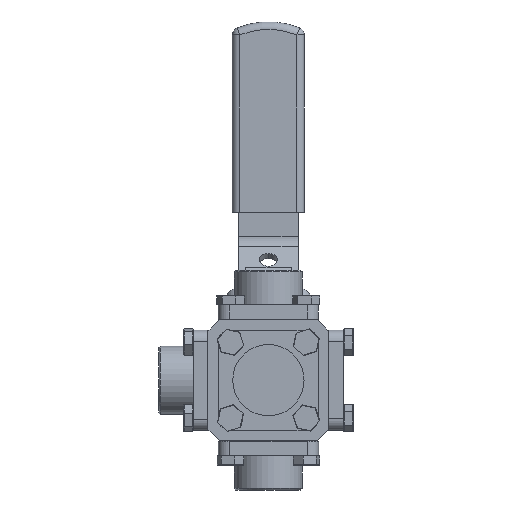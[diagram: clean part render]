
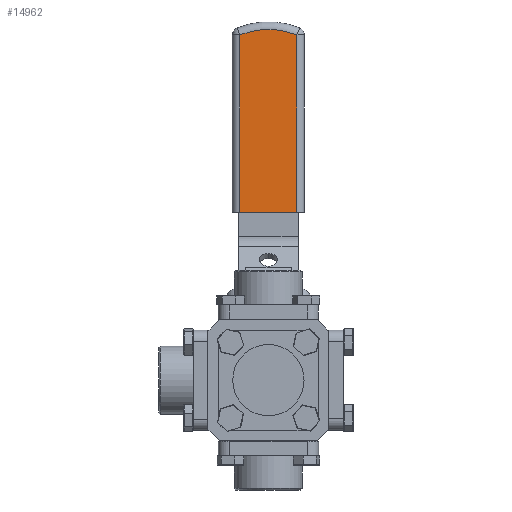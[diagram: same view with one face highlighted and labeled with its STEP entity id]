
A CAD part, front view. The second image highlights one B-rep face of the part: STEP entity #14962.
In plain terms, the highlighted planar face has unit normal (0, -1, 0).
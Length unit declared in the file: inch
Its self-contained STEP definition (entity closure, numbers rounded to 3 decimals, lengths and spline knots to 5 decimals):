
#416 = VECTOR ( 'NONE', #29830, 39.37008 ) ;
#1506 = CARTESIAN_POINT ( 'NONE',  ( -0.4685, 2.974, 2.77121 ) ) ;
#1509 = DIRECTION ( 'NONE',  ( -1., 0., 0. ) ) ;
#3015 = EDGE_CURVE ( 'NONE', #30288, #21571, #10629, .T. ) ;
#3848 = EDGE_CURVE ( 'NONE', #21984, #30288, #8434, .T. ) ;
#4660 = CARTESIAN_POINT ( 'NONE',  ( -0.4685, 2.974, 5.69046 ) ) ;
#5086 = LINE ( 'NONE', #19283, #12215 ) ;
#5536 = VERTEX_POINT ( 'NONE', #5613 ) ;
#5613 = CARTESIAN_POINT ( 'NONE',  ( 0.4685, 2.974, 2.77121 ) ) ;
#8434 = CIRCLE ( 'NONE', #25064, 1.2275 ) ;
#9526 = DIRECTION ( 'NONE',  ( -1., 0., 0. ) ) ;
#9933 = VECTOR ( 'NONE', #9526, 39.37008 ) ;
#10142 = PLANE ( 'NONE',  #16202 ) ;
#10262 = EDGE_CURVE ( 'NONE', #5536, #21984, #5086, .T. ) ;
#10629 = LINE ( 'NONE', #1506, #416 ) ;
#10929 = CARTESIAN_POINT ( 'NONE',  ( -0.4685, 2.974, 2.77121 ) ) ;
#10961 = DIRECTION ( 'NONE',  ( 0., -1., 0. ) ) ;
#11473 = FACE_OUTER_BOUND ( 'NONE', #17982, .T. ) ;
#12035 = DIRECTION ( 'NONE',  ( -1., 0., 0. ) ) ;
#12215 = VECTOR ( 'NONE', #26987, 39.37008 ) ;
#12230 = LINE ( 'NONE', #24174, #9933 ) ;
#12377 = DIRECTION ( 'NONE',  ( 0., 1., 0. ) ) ;
#14962 = ADVANCED_FACE ( 'NONE', ( #11473 ), #10142, .F. ) ;
#15973 = CARTESIAN_POINT ( 'NONE',  ( 0., 2.974, 4.55588 ) ) ;
#16202 = AXIS2_PLACEMENT_3D ( 'NONE', #24005, #12377, #12035 ) ;
#17982 = EDGE_LOOP ( 'NONE', ( #24187, #27435, #24863, #19836 ) ) ;
#19283 = CARTESIAN_POINT ( 'NONE',  ( 0.4685, 2.974, 5.77121 ) ) ;
#19836 = ORIENTED_EDGE ( 'NONE', *, *, #3015, .T. ) ;
#21571 = VERTEX_POINT ( 'NONE', #10929 ) ;
#21984 = VERTEX_POINT ( 'NONE', #23362 ) ;
#23362 = CARTESIAN_POINT ( 'NONE',  ( 0.4685, 2.974, 5.69046 ) ) ;
#24005 = CARTESIAN_POINT ( 'NONE',  ( 0., 2.974, 4.55588 ) ) ;
#24174 = CARTESIAN_POINT ( 'NONE',  ( -0.5935, 2.974, 2.77121 ) ) ;
#24187 = ORIENTED_EDGE ( 'NONE', *, *, #30325, .F. ) ;
#24863 = ORIENTED_EDGE ( 'NONE', *, *, #3848, .T. ) ;
#25064 = AXIS2_PLACEMENT_3D ( 'NONE', #15973, #10961, #1509 ) ;
#26987 = DIRECTION ( 'NONE',  ( 0., 0., 1. ) ) ;
#27435 = ORIENTED_EDGE ( 'NONE', *, *, #10262, .T. ) ;
#29830 = DIRECTION ( 'NONE',  ( 0., 0., -1. ) ) ;
#30288 = VERTEX_POINT ( 'NONE', #4660 ) ;
#30325 = EDGE_CURVE ( 'NONE', #5536, #21571, #12230, .T. ) ;
